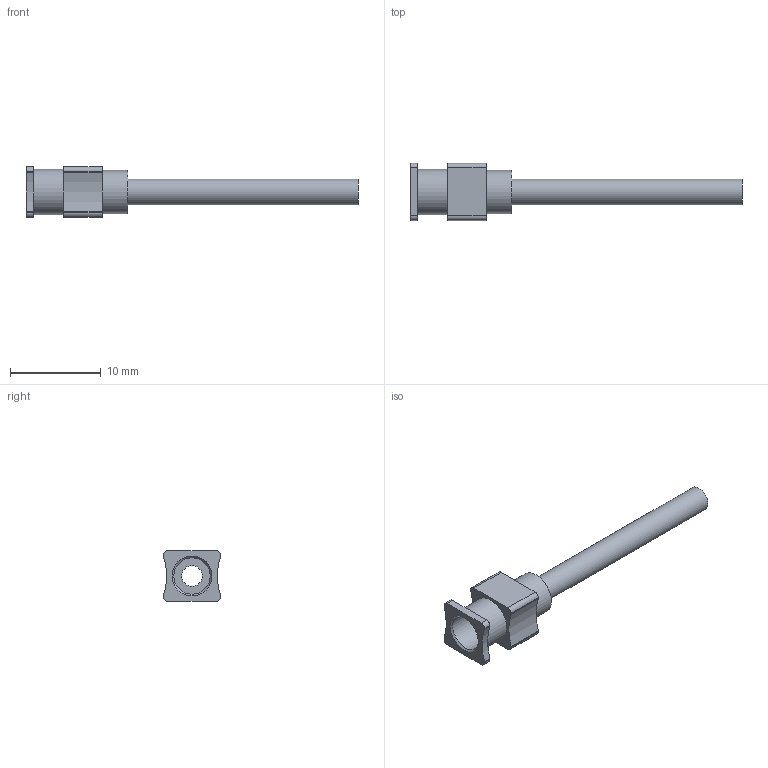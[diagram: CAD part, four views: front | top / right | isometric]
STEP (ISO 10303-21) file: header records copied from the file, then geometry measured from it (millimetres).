
FILE_DESCRIPTION (( 'STEP AP214' ), '1' );
FILE_NAME ('DAV SS 12 10.STEP', '2021-04-15T08:10:31', ( '' ), ( '' ), 'SwSTEP 2.0', 'SolidWorks 2015', '' );
FILE_SCHEMA (( 'AUTOMOTIVE_DESIGN' ));
Length unit declared in the file: millimetre
Products named in the file (1): DAV SS 12 10
Bounding box: 36.6 x 6.3 x 5.6 mm (x, y, z)
Volume: 227.4 mm3; surface area: 821.2 mm2
Topology: 1 solids, 1 shells, 37 faces, 90 edges, 60 vertices
Faces by surface type: plane 19, cylinder 17, cone 1
Full cylindrical faces by diameter (mm): 2.3 x1, 2.8 x1, 4 x1, 4.8 x1, 5 x1
Entity records: 1098 total; most frequent: DIRECTION 194, CARTESIAN_POINT 180, ORIENTED_EDGE 166, EDGE_CURVE 83, AXIS2_PLACEMENT_3D 73, VERTEX_POINT 59, EDGE_LOOP 50, VECTOR 48
